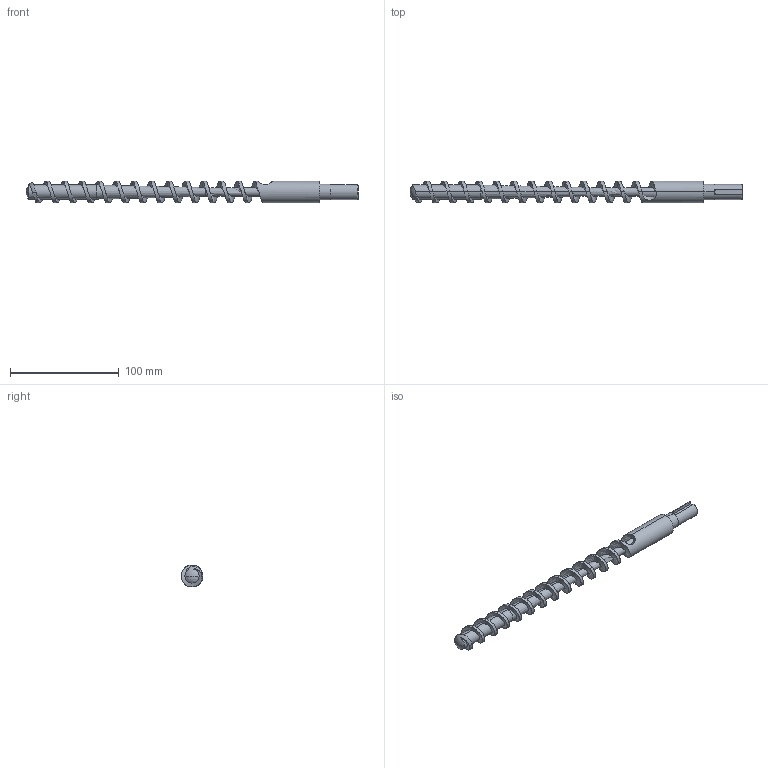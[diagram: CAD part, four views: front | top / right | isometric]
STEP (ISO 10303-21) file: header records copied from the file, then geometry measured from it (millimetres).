
FILE_DESCRIPTION (( 'STEP AP203' ), '1' );
FILE_NAME ('螺杆 2- 副本.STEP', '2021-03-30T16:59:24', ( '微软用户' ), ( '微软中国' ), 'SwSTEP 2.0', 'SolidWorks 2013', '' );
FILE_SCHEMA (( 'CONFIG_CONTROL_DESIGN' ));
Length unit declared in the file: millimetre
Products named in the file (1): 蹟裝 2- 萵掛
Bounding box: 305 x 20 x 20 mm (x, y, z)
Volume: 49581.3 mm3; surface area: 20111.3 mm2
Topology: 1 solids, 1 shells, 75 faces, 207 edges, 135 vertices
Faces by surface type: cylinder 44, cone 16, plane 7, bspline 5, sphere 3
Entity records: 8173 total; most frequent: CARTESIAN_POINT 6482, ORIENTED_EDGE 412, DIRECTION 259, EDGE_CURVE 206, VERTEX_POINT 135, AXIS2_PLACEMENT_3D 96, EDGE_LOOP 77, FACE_OUTER_BOUND 75
